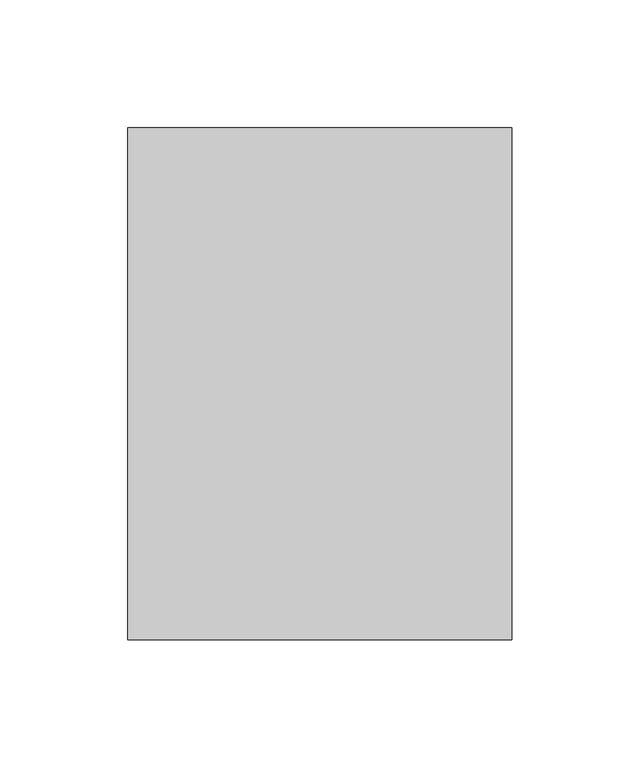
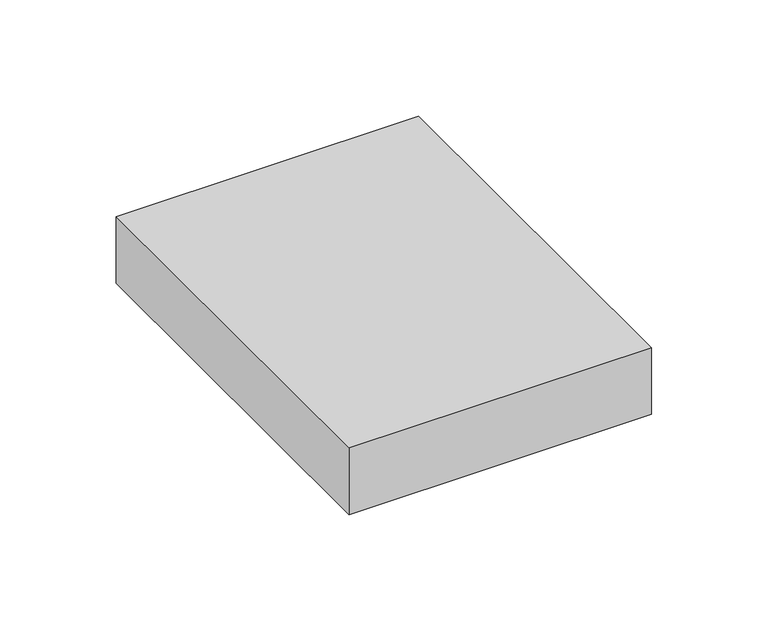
"""IFC4 building model written with IfcOpenShell, lengths in millimetres: furniture geometry, Pixel_Multiple : Pixel_Multiple."""

from ifc_helpers import new_model, si_unit, origin, origin_with_axes, place, context, project, spatial, polyline, outline, extrude, source, transform, mapped, element, save


def furniture_9d582094(model_context):
    return source(origin(), model_context, "Body", "SweptSolid", [
        extrude(outline(polyline([(150.0, 0.0), (0.0, 0.0), (0.0, 200.0), (150.0, 200.0), (150.0, 0.0)])), origin_with_axes(), (0.0, 0.0, 1.0), 35.0),
    ])


if __name__ == "__main__":
    model = new_model("IFC4")
    model_context = context("Model", 3, world=origin())
    ifc_project = project(units=[si_unit("LENGTHUNIT", "METRE", prefix="MILLI")], contexts=[model_context])
    site = spatial("IfcSite", under=ifc_project)
    building = spatial("IfcBuilding", under=site)
    placement = place(None, origin())
    furniture_shape = furniture_9d582094(model_context)
    element("IfcFurniture", 1, ObjectType="Pixel_Multiple : Pixel_Multiple", at=placement, inside=building, context=model_context, shape_type="MappedRepresentation", body=[
        mapped(furniture_shape, transform((0.0, 0.0, 0.0), x_axis=(1.0, 0.0, 0.0), y_axis=(0.0, 1.0, 0.0), z_axis=(0.0, 0.0, 1.0))),
    ])
    save(model, "model.ifc")
